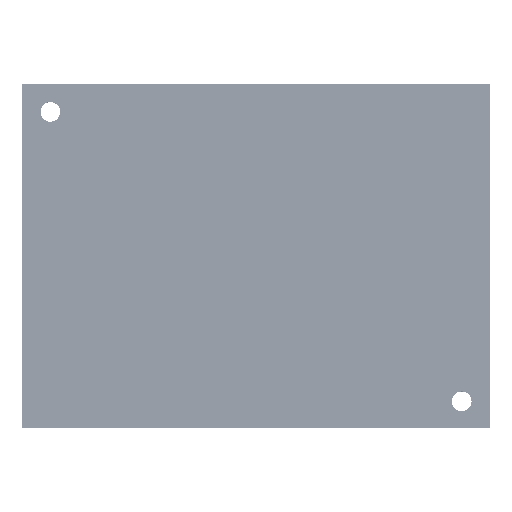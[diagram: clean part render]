
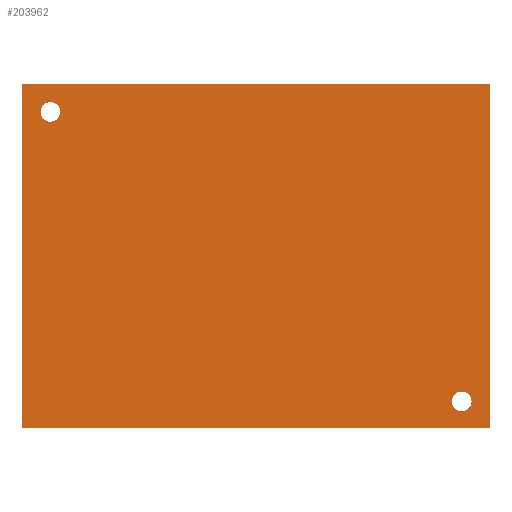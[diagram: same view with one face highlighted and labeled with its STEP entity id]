
A CAD part, top view. The second image highlights one B-rep face of the part: STEP entity #203962.
In plain terms, the highlighted planar face has unit normal (0, 0, 1).
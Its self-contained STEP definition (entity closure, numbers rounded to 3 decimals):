
#10076 = VECTOR ( 'NONE', #323104, 1000. ) ;
#24618 = CARTESIAN_POINT ( 'NONE',  ( 36.5, 2.2, 0. ) ) ;
#36176 = EDGE_CURVE ( 'NONE', #276642, #257279, #53748, .T. ) ;
#40643 = CARTESIAN_POINT ( 'NONE',  ( 0., 28., 0. ) ) ;
#46151 = CARTESIAN_POINT ( 'NONE',  ( 3.1, 25.7, 0. ) ) ;
#53748 = CIRCLE ( 'NONE', #145728, 0.8 ) ;
#55873 = CARTESIAN_POINT ( 'NONE',  ( 34.9, 2.2, 0. ) ) ;
#56156 = DIRECTION ( 'NONE',  ( 0., 0., -1. ) ) ;
#62245 = LINE ( 'NONE', #286767, #10076 ) ;
#68496 = CARTESIAN_POINT ( 'NONE',  ( 35.7, 2.2, 0. ) ) ;
#70825 = CARTESIAN_POINT ( 'NONE',  ( 0., 28., 0. ) ) ;
#73239 = ORIENTED_EDGE ( 'NONE', *, *, #274660, .T. ) ;
#75842 = FACE_BOUND ( 'NONE', #175470, .T. ) ;
#76060 = CARTESIAN_POINT ( 'NONE',  ( 0., 0., 0. ) ) ;
#76623 = LINE ( 'NONE', #316806, #204272 ) ;
#82317 = CARTESIAN_POINT ( 'NONE',  ( 38., 28., 0. ) ) ;
#82352 = AXIS2_PLACEMENT_3D ( 'NONE', #76060, #295254, #222284 ) ;
#91922 = LINE ( 'NONE', #70825, #144001 ) ;
#94620 = ORIENTED_EDGE ( 'NONE', *, *, #146406, .T. ) ;
#95678 = ORIENTED_EDGE ( 'NONE', *, *, #100182, .T. ) ;
#96536 = EDGE_CURVE ( 'NONE', #211257, #135827, #215539, .T. ) ;
#98743 = CIRCLE ( 'NONE', #166599, 0.8 ) ;
#100182 = EDGE_CURVE ( 'NONE', #130233, #293308, #223409, .T. ) ;
#103659 = EDGE_LOOP ( 'NONE', ( #308840, #219012, #95678, #94620 ) ) ;
#109051 = CARTESIAN_POINT ( 'NONE',  ( 35.7, 2.2, 0. ) ) ;
#110309 = DIRECTION ( 'NONE',  ( 0., 0., -1. ) ) ;
#112560 = PLANE ( 'NONE',  #82352 ) ;
#114936 = VERTEX_POINT ( 'NONE', #40643 ) ;
#126841 = EDGE_CURVE ( 'NONE', #257279, #276642, #98743, .T. ) ;
#130233 = VERTEX_POINT ( 'NONE', #293572 ) ;
#133968 = CARTESIAN_POINT ( 'NONE',  ( 38., 28., 0. ) ) ;
#135827 = VERTEX_POINT ( 'NONE', #55873 ) ;
#140058 = VECTOR ( 'NONE', #306844, 1000. ) ;
#144001 = VECTOR ( 'NONE', #238034, 1000. ) ;
#145728 = AXIS2_PLACEMENT_3D ( 'NONE', #317297, #56156, #238970 ) ;
#146406 = EDGE_CURVE ( 'NONE', #293308, #114936, #62245, .T. ) ;
#149334 = ORIENTED_EDGE ( 'NONE', *, *, #126841, .T. ) ;
#160263 = DIRECTION ( 'NONE',  ( 1., 0., 0. ) ) ;
#166599 = AXIS2_PLACEMENT_3D ( 'NONE', #258019, #289244, #200588 ) ;
#169776 = FACE_BOUND ( 'NONE', #278022, .T. ) ;
#170701 = AXIS2_PLACEMENT_3D ( 'NONE', #68496, #110309, #193895 ) ;
#175470 = EDGE_LOOP ( 'NONE', ( #209490, #149334 ) ) ;
#185555 = AXIS2_PLACEMENT_3D ( 'NONE', #109051, #312525, #322991 ) ;
#193895 = DIRECTION ( 'NONE',  ( -1., 0., 0. ) ) ;
#200588 = DIRECTION ( 'NONE',  ( -1., 0., 0. ) ) ;
#201227 = FACE_OUTER_BOUND ( 'NONE', #103659, .T. ) ;
#203962 = ADVANCED_FACE ( 'NONE', ( #201227, #169776, #75842 ), #112560, .T. ) ;
#204272 = VECTOR ( 'NONE', #160263, 1000. ) ;
#209490 = ORIENTED_EDGE ( 'NONE', *, *, #36176, .T. ) ;
#211257 = VERTEX_POINT ( 'NONE', #24618 ) ;
#214426 = CARTESIAN_POINT ( 'NONE',  ( 0., 0., 0. ) ) ;
#215539 = CIRCLE ( 'NONE', #185555, 0.8 ) ;
#219012 = ORIENTED_EDGE ( 'NONE', *, *, #320660, .T. ) ;
#222284 = DIRECTION ( 'NONE',  ( 1., 0., 0. ) ) ;
#223409 = LINE ( 'NONE', #82317, #140058 ) ;
#238034 = DIRECTION ( 'NONE',  ( 0., -1., 0. ) ) ;
#238970 = DIRECTION ( 'NONE',  ( -1., 0., 0. ) ) ;
#245098 = VERTEX_POINT ( 'NONE', #214426 ) ;
#245912 = ORIENTED_EDGE ( 'NONE', *, *, #96536, .T. ) ;
#257279 = VERTEX_POINT ( 'NONE', #46151 ) ;
#258019 = CARTESIAN_POINT ( 'NONE',  ( 2.3, 25.7, 0. ) ) ;
#274660 = EDGE_CURVE ( 'NONE', #135827, #211257, #286589, .T. ) ;
#276642 = VERTEX_POINT ( 'NONE', #300173 ) ;
#278022 = EDGE_LOOP ( 'NONE', ( #73239, #245912 ) ) ;
#278628 = EDGE_CURVE ( 'NONE', #114936, #245098, #91922, .T. ) ;
#286589 = CIRCLE ( 'NONE', #170701, 0.8 ) ;
#286767 = CARTESIAN_POINT ( 'NONE',  ( 0., 28., 0. ) ) ;
#289244 = DIRECTION ( 'NONE',  ( 0., 0., -1. ) ) ;
#293308 = VERTEX_POINT ( 'NONE', #133968 ) ;
#293572 = CARTESIAN_POINT ( 'NONE',  ( 38., 0., 0. ) ) ;
#295254 = DIRECTION ( 'NONE',  ( 0., 0., 1. ) ) ;
#300173 = CARTESIAN_POINT ( 'NONE',  ( 1.5, 25.7, 0. ) ) ;
#306844 = DIRECTION ( 'NONE',  ( 0., 1., 0. ) ) ;
#308840 = ORIENTED_EDGE ( 'NONE', *, *, #278628, .T. ) ;
#312525 = DIRECTION ( 'NONE',  ( 0., 0., -1. ) ) ;
#316806 = CARTESIAN_POINT ( 'NONE',  ( 0., 0., 0. ) ) ;
#317297 = CARTESIAN_POINT ( 'NONE',  ( 2.3, 25.7, 0. ) ) ;
#320660 = EDGE_CURVE ( 'NONE', #245098, #130233, #76623, .T. ) ;
#322991 = DIRECTION ( 'NONE',  ( -1., 0., 0. ) ) ;
#323104 = DIRECTION ( 'NONE',  ( -1., 0., 0. ) ) ;
